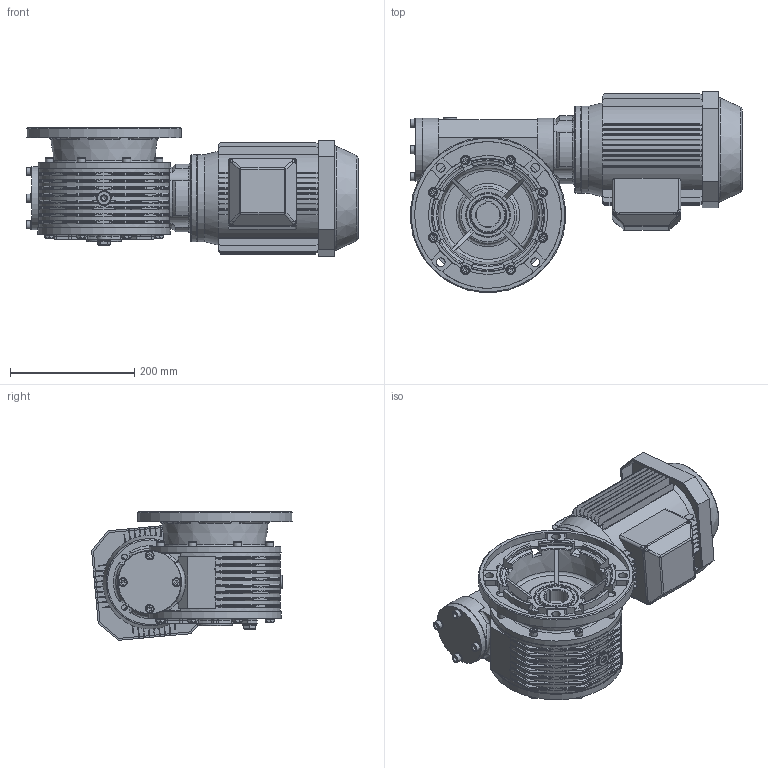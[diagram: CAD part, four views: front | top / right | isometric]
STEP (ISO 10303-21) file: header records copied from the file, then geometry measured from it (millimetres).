
FILE_DESCRIPTION((''),'2;1');
FILE_NAME('Y:\Archivi Inventor\Prog_01\GRAND_50\complessivi\Figurini\MRV50 sito\90l\mrv50_F2_90L_B14.stp','2013-02-08T10:21:26',('tech3'),(''),'Autodesk Inventor 2013','Autodesk Inventor 2013','');
FILE_SCHEMA(('AUTOMOTIVE_DESIGN { 1 0 10303 214 1 1 1 1 }'));
Length unit declared in the file: millimetre
Products named in the file (20): mrv50_90s_90l_b14; mrv50_fig; Figurino_carcassa_MRV50; 0105028; 0105029; figurino_corona_MRV50; Guarnizione 3_8 GAS; Tappo 3_8 GAS_esagn_incsst; figurino_0105009; ISO 4017 M8 x 20; 55_70_8; fig_0105002; figurino_0105003; Tappo3_8 GAS; ISO 4762 M8 x 16; UNI 6592 8.4 x 14; UNI 5931  M 8 x  25; 0105006; DIN EN ISO 4762 M8 x 25; motori B14 90L
Assembly tree (48 placements, depth 3):
  mrv50_90s_90l_b14
    mrv50_fig
      Figurino_carcassa_MRV50
      0105028  x2
      0105029  x2
      figurino_corona_MRV50
      Guarnizione 3_8 GAS  x3
      Tappo 3_8 GAS_esagn_incsst  x2
      figurino_0105009
      ISO 4017 M8 x 20  x8
      55_70_8  x2
      fig_0105002
      figurino_0105003
      Tappo3_8 GAS
      ISO 4762 M8 x 16  x8
      UNI 6592 8.4 x 14  x4
      UNI 5931  M 8 x  25  x4
    0105006
    DIN EN ISO 4762 M8 x 25  x4
    motori B14 90L
Bounding box: 533.8 x 323.03 x 206.86 mm (x, y, z)
Volume: 11135709.9 mm3; surface area: 1224471.1 mm2
Topology: 59 solids, 65 shells, 2083 faces, 5114 edges, 3086 vertices
Faces by surface type: plane 877, cylinder 611, torus 203, cone 202, bspline 156, sphere 34
Full cylindrical faces by diameter (mm): 2 x2, 6.647 x28, 8 x26, 8.4 x4, 8.5 x48, 9 x4, 11.63 x8, 13 x20, 13.046 x1, 14 x12, 14.95 x3, 16.3 x3, 16.5 x2, 22 x6, 24 x3, 55 x1, 60 x1, 66.4 x2, 69 x2, 70 x6, 72 x4, 73 x2, 75 x1, 80 x1, 90 x1, 95 x1, 99.5 x2, 101 x1, 102 x2, 114.4 x1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
Entity records: 58316 total; most frequent: CARTESIAN_POINT 19467, DIRECTION 7946, ORIENTED_EDGE 7520, EDGE_CURVE 3760, AXIS2_PLACEMENT_3D 3140, VERTEX_POINT 2453, EDGE_LOOP 2059, VECTOR 1666
